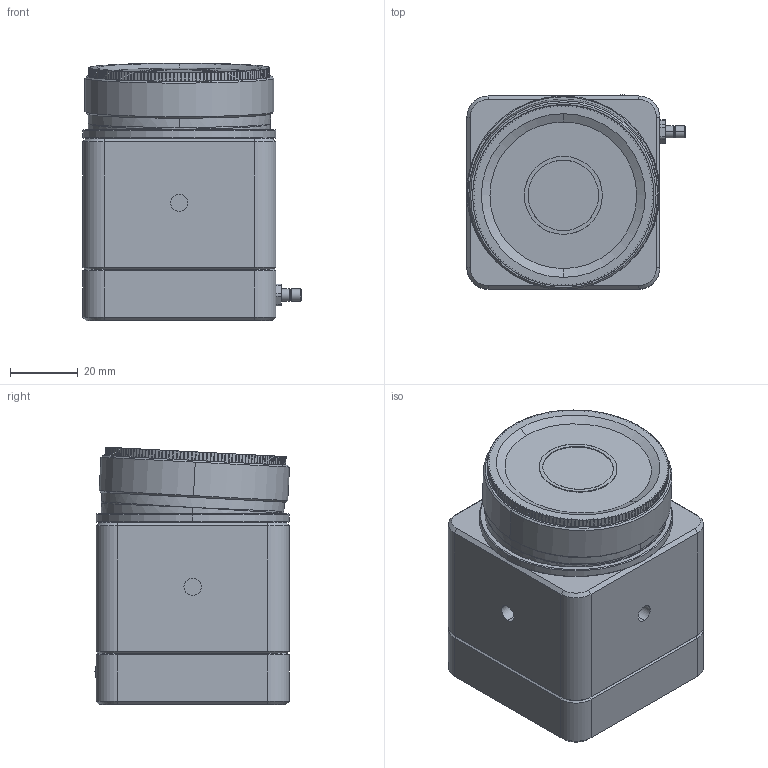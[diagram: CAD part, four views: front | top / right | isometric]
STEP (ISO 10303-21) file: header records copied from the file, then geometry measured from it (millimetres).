
FILE_DESCRIPTION (( 'STEP AP214' ), '1' );
FILE_NAME ('TCD-LCM.STEP', '2019-03-05T18:27:45', ( '' ), ( '' ), 'SwSTEP 2.0', 'SolidWorks 2018', '' );
FILE_SCHEMA (( 'AUTOMOTIVE_DESIGN' ));
Length unit declared in the file: inch
Products named in the file (20): SM2RR; LCM-MV USB3110-30-A_revF; NDXL Cap; NDXL-Angle-Adapter; LCM Taper; LCM-MV smb port; 2.0 ND 5.0 Filter Glass_4; Taper_Shock_Absorber_9452K42; Case_Screw; TCD-LCM; Buna-N_0p6x_OD50; PLP2-375; TLCM Front 0.3; Taper Mount; SM2 ND-H; PCB DataRay TaperLCM; SM2LR; NDXL; TLCM Back; NDXL-Angle-Plate
Assembly tree (20 placements, depth 4):
  TCD-LCM
    NDXL
      SM2 ND-H
      2.0 ND 5.0 Filter Glass_4
      SM2RR
      Buna-N_0p6x_OD50
      NDXL-Angle-Plate
        NDXL-Angle-Adapter
        SM2LR
      NDXL Cap
    TLCM Front 0.3
    PCB DataRay TaperLCM
      LCM-MV USB3110-30-A_revF
    Taper Mount
    TLCM Back
    LCM-MV smb port
    LCM Taper
    Taper_Shock_Absorber_9452K42
    PLP2-375
    Case_Screw  x2
Bounding box: 64.65 x 57.73 x 76.28 mm (x, y, z)
Volume: 164607.5 mm3; surface area: 65205.9 mm2
Topology: 18 solids, 18 shells, 2048 faces, 5742 edges, 3732 vertices
Faces by surface type: plane 1089, cylinder 795, cone 131, bspline 12, sphere 11, torus 10
Entity records: 76806 total; most frequent: CARTESIAN_POINT 17143, ORIENTED_EDGE 10498, DIRECTION 9194, EDGE_CURVE 5249, LINE 3578, VECTOR 3578, VERTEX_POINT 3412, AXIS2_PLACEMENT_3D 2808
